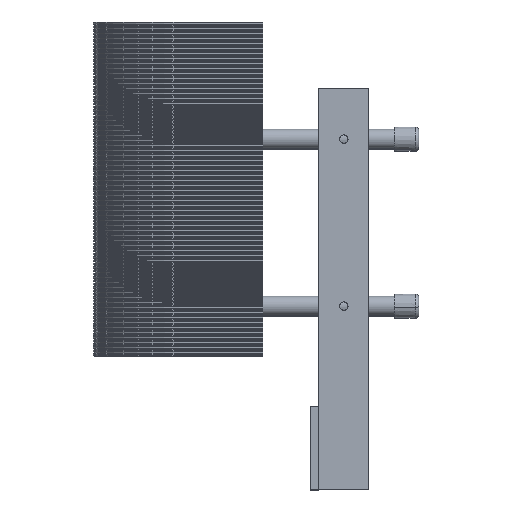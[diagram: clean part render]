
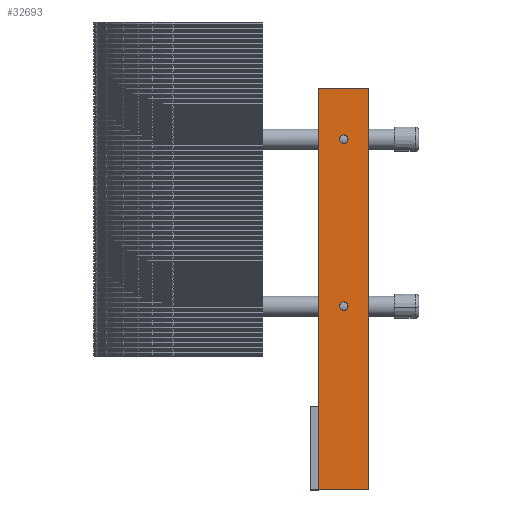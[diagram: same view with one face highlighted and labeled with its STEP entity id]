
A CAD part, top view. The second image highlights one B-rep face of the part: STEP entity #32693.
In plain terms, the highlighted planar face has unit normal (0, 0, 1) as drawn and (-1, 0, 0) by its records, which use the part's own axes.
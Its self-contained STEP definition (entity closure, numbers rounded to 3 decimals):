
#290 = VECTOR ( 'NONE', #38477, 1000. ) ;
#760 = ORIENTED_EDGE ( 'NONE', *, *, #16870, .T. ) ;
#1095 = VERTEX_POINT ( 'NONE', #20938 ) ;
#1853 = CARTESIAN_POINT ( 'NONE',  ( -15., 120., 15. ) ) ;
#2082 = LINE ( 'NONE', #1853, #32461 ) ;
#2739 = FACE_BOUND ( 'NONE', #38314, .T. ) ;
#3513 = PLANE ( 'NONE',  #36937 ) ;
#5410 = EDGE_LOOP ( 'NONE', ( #28880, #38804, #27077, #35956 ) ) ;
#5856 = DIRECTION ( 'NONE',  ( 0., -1., 0. ) ) ;
#7699 = EDGE_CURVE ( 'NONE', #30731, #11666, #11947, .T. ) ;
#8144 = DIRECTION ( 'NONE',  ( 0., 0., 1. ) ) ;
#8536 = EDGE_CURVE ( 'NONE', #17527, #9053, #12921, .T. ) ;
#9016 = LINE ( 'NONE', #27760, #31691 ) ;
#9053 = VERTEX_POINT ( 'NONE', #21156 ) ;
#9688 = CIRCLE ( 'NONE', #26417, 2.5 ) ;
#10873 = CARTESIAN_POINT ( 'NONE',  ( -15., -10., 2.5 ) ) ;
#11086 = VERTEX_POINT ( 'NONE', #21952 ) ;
#11379 = ORIENTED_EDGE ( 'NONE', *, *, #23297, .T. ) ;
#11666 = VERTEX_POINT ( 'NONE', #12655 ) ;
#11947 = LINE ( 'NONE', #15029, #27865 ) ;
#12655 = CARTESIAN_POINT ( 'NONE',  ( -15., -120., -15. ) ) ;
#12921 = CIRCLE ( 'NONE', #34773, 2.5 ) ;
#14291 = CARTESIAN_POINT ( 'NONE',  ( -15., 90., -2.5 ) ) ;
#15029 = CARTESIAN_POINT ( 'NONE',  ( -15., 120., -15. ) ) ;
#15494 = VERTEX_POINT ( 'NONE', #10873 ) ;
#15538 = DIRECTION ( 'NONE',  ( 1., 0., 0. ) ) ;
#15637 = EDGE_CURVE ( 'NONE', #30731, #1095, #2082, .T. ) ;
#16870 = EDGE_CURVE ( 'NONE', #9053, #17527, #9688, .T. ) ;
#17527 = VERTEX_POINT ( 'NONE', #14291 ) ;
#19947 = CARTESIAN_POINT ( 'NONE',  ( -15., 120., -15. ) ) ;
#20938 = CARTESIAN_POINT ( 'NONE',  ( -15., 120., 15. ) ) ;
#20989 = LINE ( 'NONE', #35359, #290 ) ;
#21156 = CARTESIAN_POINT ( 'NONE',  ( -15., 90., 2.5 ) ) ;
#21562 = CARTESIAN_POINT ( 'NONE',  ( -15., -10., 0. ) ) ;
#21732 = DIRECTION ( 'NONE',  ( 1., 0., 0. ) ) ;
#21952 = CARTESIAN_POINT ( 'NONE',  ( -15., -120., 15. ) ) ;
#21979 = FACE_BOUND ( 'NONE', #23109, .T. ) ;
#22064 = DIRECTION ( 'NONE',  ( 1., 0., 0. ) ) ;
#22792 = CARTESIAN_POINT ( 'NONE',  ( -15., -10., -2.5 ) ) ;
#23109 = EDGE_LOOP ( 'NONE', ( #11379, #38805 ) ) ;
#23297 = EDGE_CURVE ( 'NONE', #30268, #15494, #37599, .T. ) ;
#23445 = DIRECTION ( 'NONE',  ( 0., 0., -1. ) ) ;
#23580 = DIRECTION ( 'NONE',  ( 1., 0., 0. ) ) ;
#25367 = CIRCLE ( 'NONE', #37891, 2.5 ) ;
#26417 = AXIS2_PLACEMENT_3D ( 'NONE', #35732, #23580, #23445 ) ;
#27077 = ORIENTED_EDGE ( 'NONE', *, *, #15637, .F. ) ;
#27760 = CARTESIAN_POINT ( 'NONE',  ( -15., -120., 15. ) ) ;
#27865 = VECTOR ( 'NONE', #5856, 1000. ) ;
#28424 = DIRECTION ( 'NONE',  ( 0., 0., -1. ) ) ;
#28880 = ORIENTED_EDGE ( 'NONE', *, *, #32536, .T. ) ;
#29847 = EDGE_CURVE ( 'NONE', #15494, #30268, #25367, .T. ) ;
#30221 = EDGE_CURVE ( 'NONE', #1095, #11086, #20989, .T. ) ;
#30268 = VERTEX_POINT ( 'NONE', #22792 ) ;
#30541 = CARTESIAN_POINT ( 'NONE',  ( -15., -10., 0. ) ) ;
#30731 = VERTEX_POINT ( 'NONE', #19947 ) ;
#31691 = VECTOR ( 'NONE', #33717, 1000. ) ;
#32461 = VECTOR ( 'NONE', #8144, 1000. ) ;
#32536 = EDGE_CURVE ( 'NONE', #11666, #11086, #9016, .T. ) ;
#32612 = FACE_OUTER_BOUND ( 'NONE', #5410, .T. ) ;
#32693 = ADVANCED_FACE ( 'NONE', ( #2739, #21979, #32612 ), #3513, .F. ) ;
#33407 = DIRECTION ( 'NONE',  ( 0., 0., -1. ) ) ;
#33717 = DIRECTION ( 'NONE',  ( 0., 0., 1. ) ) ;
#34037 = DIRECTION ( 'NONE',  ( 0., 0., -1. ) ) ;
#34386 = CARTESIAN_POINT ( 'NONE',  ( -15., 120., 15. ) ) ;
#34773 = AXIS2_PLACEMENT_3D ( 'NONE', #39626, #39223, #33407 ) ;
#35359 = CARTESIAN_POINT ( 'NONE',  ( -15., 120., 15. ) ) ;
#35732 = CARTESIAN_POINT ( 'NONE',  ( -15., 90., 0. ) ) ;
#35956 = ORIENTED_EDGE ( 'NONE', *, *, #7699, .T. ) ;
#36937 = AXIS2_PLACEMENT_3D ( 'NONE', #34386, #22064, #28424 ) ;
#37099 = DIRECTION ( 'NONE',  ( 0., 0., -1. ) ) ;
#37413 = AXIS2_PLACEMENT_3D ( 'NONE', #21562, #15538, #37099 ) ;
#37599 = CIRCLE ( 'NONE', #37413, 2.5 ) ;
#37891 = AXIS2_PLACEMENT_3D ( 'NONE', #30541, #21732, #34037 ) ;
#38314 = EDGE_LOOP ( 'NONE', ( #39545, #760 ) ) ;
#38477 = DIRECTION ( 'NONE',  ( 0., -1., 0. ) ) ;
#38804 = ORIENTED_EDGE ( 'NONE', *, *, #30221, .F. ) ;
#38805 = ORIENTED_EDGE ( 'NONE', *, *, #29847, .T. ) ;
#39223 = DIRECTION ( 'NONE',  ( 1., 0., 0. ) ) ;
#39545 = ORIENTED_EDGE ( 'NONE', *, *, #8536, .T. ) ;
#39626 = CARTESIAN_POINT ( 'NONE',  ( -15., 90., 0. ) ) ;
